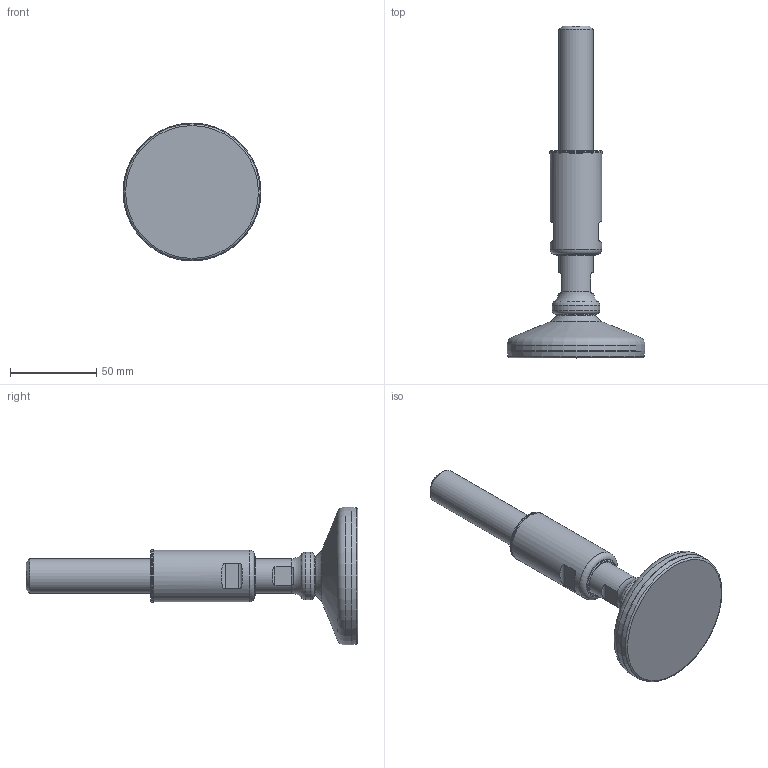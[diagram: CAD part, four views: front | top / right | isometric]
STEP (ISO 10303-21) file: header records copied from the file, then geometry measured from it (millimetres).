
FILE_DESCRIPTION(/* description */ (''),/* implementation_level */ '2;1');
FILE_NAME(/* name */ '\\NAS-MODULA\Backup-nas\Pubblica\DISEGNI 2017\13. LINEA 3A\LINEA PIEDI 3A\ASSIEMI\3D\27347-3A\27347-3A.stp',/* time_stamp */ '2018-09-17T11:23:25+02:00',/* author */ ('Martin'),/* organization */ (''),/* preprocessor_version */ 'ST-DEVELOPER v17',/* originating_system */ 'Autodesk Inventor 2018',/* authorisation */ '');
FILE_SCHEMA (('AUTOMOTIVE_DESIGN { 1 0 10303 214 3 1 1 }'));
Length unit declared in the file: millimetre
Products named in the file (1): 27347-3A
Bounding box: 80 x 192.4 x 80 mm (x, y, z)
Volume: 158734.3 mm3; surface area: 53185.4 mm2
Topology: 8 solids, 8 shells, 105 faces, 306 edges, 231 vertices
Faces by surface type: cylinder 38, plane 33, torus 25, cone 7, bspline 2
Full cylindrical faces by diameter (mm): 8.5 x2, 10 x1, 10.3 x3, 12 x2, 16 x2, 19.8 x1, 20 x3, 20.2 x1, 22.4 x1, 22.8 x2, 23 x2, 26 x2, 27 x2, 27.5 x1, 30 x3, 30.4 x1, 80 x1
Entity records: 4130 total; most frequent: CARTESIAN_POINT 955, DIRECTION 736, ORIENTED_EDGE 612, AXIS2_PLACEMENT_3D 341, EDGE_CURVE 306, CIRCLE 237, VERTEX_POINT 231, EDGE_LOOP 129
